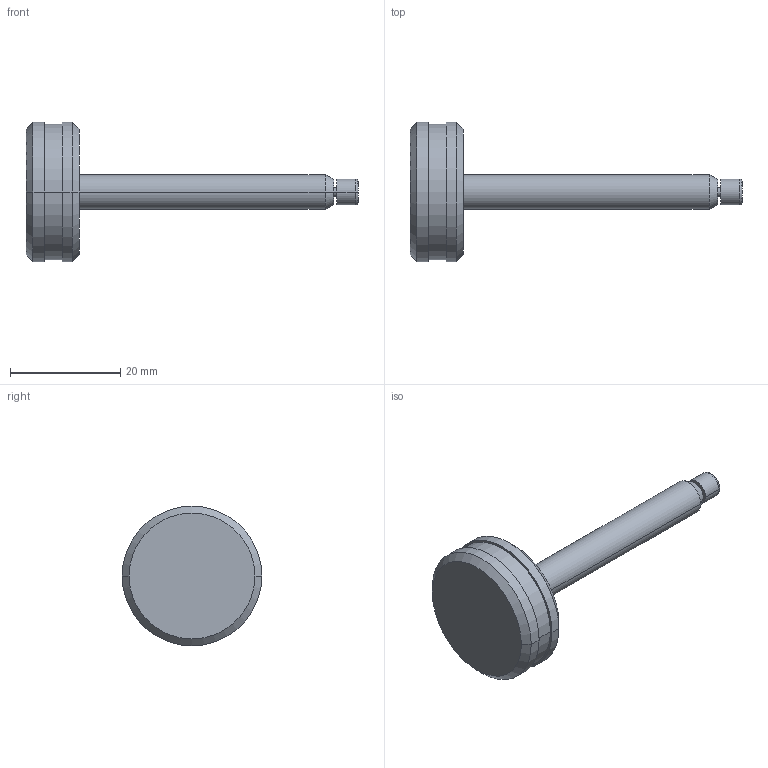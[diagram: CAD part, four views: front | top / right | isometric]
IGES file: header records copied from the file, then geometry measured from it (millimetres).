
Start section:  PTC IGES file: sch330-part.igs
Global section: file name: sch330-part.igs; native system: Pro/ENGINEER by Parametric Technology Corporation; preprocessor: 2002350; author: chant; organization: Unknown; date: 070529.151109; units: inch
Bounding box: 60.33 x 25.4 x 25.4 mm (x, y, z)
Surface area: 2746.1 mm2 (no closed solid volume)
Topology: 0 solids, 0 shells, 33 faces, 172 edges, 194 vertices
Faces by surface type: revolution 26, bspline 7
